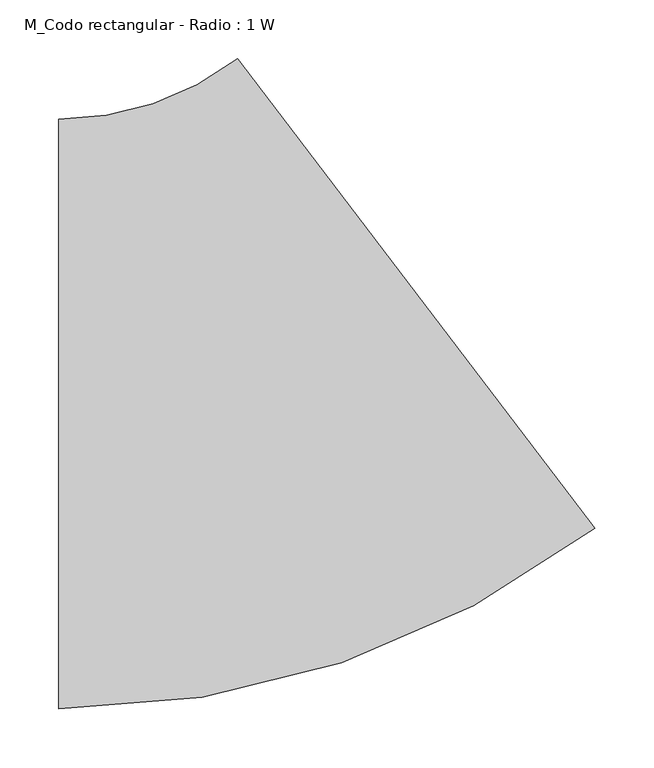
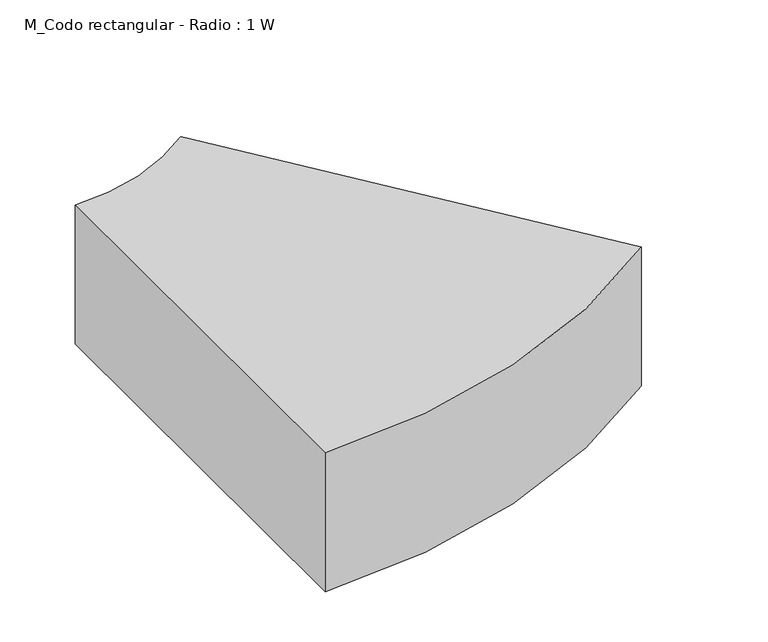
"""IFC4 building model written with IfcOpenShell, lengths in millimetres: duct fitting geometry, M_Codo rectangular - Radio : 1 W."""

from ifc_helpers import new_model, si_unit, point, frame, frame_2d, origin, place, context, project, spatial, polyline, circle_curve, trimmed, segment, composite_curve, outline, extrude, source, transform, mapped, element, save


def m_codo_rectangular_radio_1_w_1f6e3948(model_context):
    return source(origin(), model_context, "Body", "SweptSolid", [
        extrude(outline(composite_curve([segment(trimmed(circle_curve(frame_2d((-168.7872075, 500.0)), 750.0), [point((285.7741951, -96.5517004))], [point((-168.7872075, -250.0))], False, "CARTESIAN"), True, "CONTINUOUS"), segment(polyline([(-168.7872075, -250.0), (-168.7872075, 250.0)]), True, "CONTINUOUS"), segment(trimmed(circle_curve(frame_2d((-168.7872075, 500.0)), 250.0), [point((-168.7872075, 250.0))], [point((-17.26674, 301.1494332))], True, "CARTESIAN"), True, "CONTINUOUS"), segment(polyline([(-17.26674, 301.1494332), (285.7741951, -96.5517004)]), True, "CONTINUOUS")], self_intersect=False)), frame((0.0, 0.0, -85.0), z_axis=(0.0, 0.0, 1.0), x_axis=(1.0, 0.0, 0.0)), (0.0, 0.0, 1.0), 170.0),
    ])


if __name__ == "__main__":
    model = new_model("IFC4")
    model_context = context("Model", 3, world=origin())
    ifc_project = project(units=[si_unit("LENGTHUNIT", "METRE", prefix="MILLI")], contexts=[model_context])
    site = spatial("IfcSite", under=ifc_project)
    building = spatial("IfcBuilding", under=site)
    placement = place(None, origin())
    m_codo_rectangular_radio_1_w_shape = m_codo_rectangular_radio_1_w_1f6e3948(model_context)
    element("IfcDuctFitting", 1, ObjectType="M_Codo rectangular - Radio : 1 W", at=placement, inside=building, context=model_context, shape_type="MappedRepresentation", body=[
        mapped(m_codo_rectangular_radio_1_w_shape, transform((0.0, 0.0, 0.0), x_axis=(1.0, 0.0, 0.0), y_axis=(0.0, 1.0, 0.0), z_axis=(0.0, 0.0, 1.0))),
    ])
    save(model, "model.ifc")
